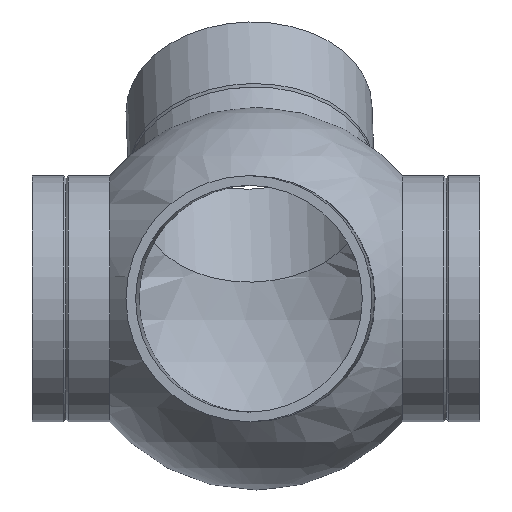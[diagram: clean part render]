
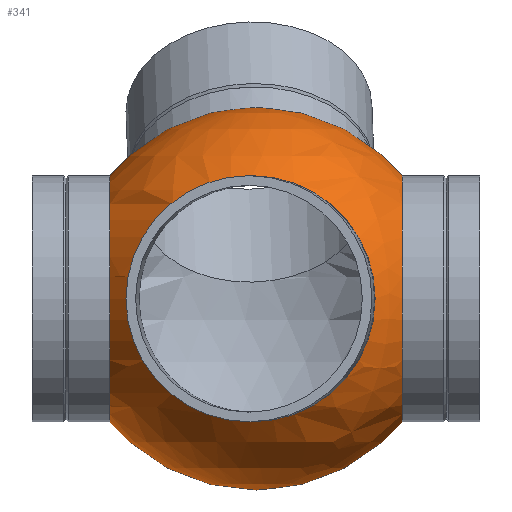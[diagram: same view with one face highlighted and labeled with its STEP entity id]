
A CAD part, left-side view. The second image highlights one B-rep face of the part: STEP entity #341.
In plain terms, the highlighted spherical face has radius 85.5 mm.
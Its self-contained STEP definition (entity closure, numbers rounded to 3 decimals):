
#13=SPHERICAL_SURFACE($,#398,85.5);
#60=FACE_BOUND($,#136,.T.);
#61=FACE_BOUND($,#137,.T.);
#62=FACE_BOUND($,#138,.T.);
#63=FACE_BOUND($,#139,.T.);
#136=EDGE_LOOP($,(#276));
#137=EDGE_LOOP($,(#277));
#138=EDGE_LOOP($,(#278));
#139=EDGE_LOOP($,(#279));
#147=CIRCLE($,#355,55.);
#152=CIRCLE($,#365,55.);
#164=CIRCLE($,#387,55.);
#169=CIRCLE($,#397,55.);
#175=VERTEX_POINT($,#525);
#180=VERTEX_POINT($,#540);
#192=VERTEX_POINT($,#574);
#197=VERTEX_POINT($,#589);
#203=EDGE_CURVE($,#175,#175,#147,.T.);
#208=EDGE_CURVE($,#180,#180,#152,.T.);
#220=EDGE_CURVE($,#192,#192,#164,.T.);
#225=EDGE_CURVE($,#197,#197,#169,.T.);
#276=ORIENTED_EDGE($,*,*,#203,.T.);
#277=ORIENTED_EDGE($,*,*,#208,.T.);
#278=ORIENTED_EDGE($,*,*,#220,.T.);
#279=ORIENTED_EDGE($,*,*,#225,.T.);
#341=ADVANCED_FACE($,(#60,#61,#62,#63),#13,.T.);
#355=AXIS2_PLACEMENT_3D($,#526,#420,#421);
#365=AXIS2_PLACEMENT_3D($,#541,#440,#441);
#387=AXIS2_PLACEMENT_3D($,#575,#484,#485);
#397=AXIS2_PLACEMENT_3D($,#590,#504,#505);
#398=AXIS2_PLACEMENT_3D($,#591,#506,#507);
#420=DIRECTION('center_axis',(-0.707,-0.026,-0.707));
#421=DIRECTION('ref_axis',(-0.707,0.,0.707));
#440=DIRECTION('center_axis',(1.,-0.026,0.));
#441=DIRECTION('ref_axis',(0.,0.,
-1.));
#484=DIRECTION('center_axis',(0.,1.,0.));
#485=DIRECTION('ref_axis',(1.,0.,0.));
#504=DIRECTION('center_axis',(0.,-1.,0.));
#505=DIRECTION('ref_axis',(1.,0.,0.));
#506=DIRECTION('center_axis',(0.,0.,1.));
#507=DIRECTION('ref_axis',(1.,0.,0.));
#525=CARTESIAN_POINT('',(85.164,1.714,7.382));
#526=CARTESIAN_POINT('Origin',(46.273,1.714,46.273));
#540=CARTESIAN_POINT('',(-65.439,1.714,55.));
#541=CARTESIAN_POINT('Origin',(-65.439,1.714,0.));
#574=CARTESIAN_POINT('',(-55.,-65.462,0.));
#575=CARTESIAN_POINT('Origin',(0.,-65.462,0.));
#589=CARTESIAN_POINT('',(-55.,65.462,0.));
#590=CARTESIAN_POINT('Origin',(0.,65.462,0.));
#591=CARTESIAN_POINT('Origin',(0.,0.,0.));
